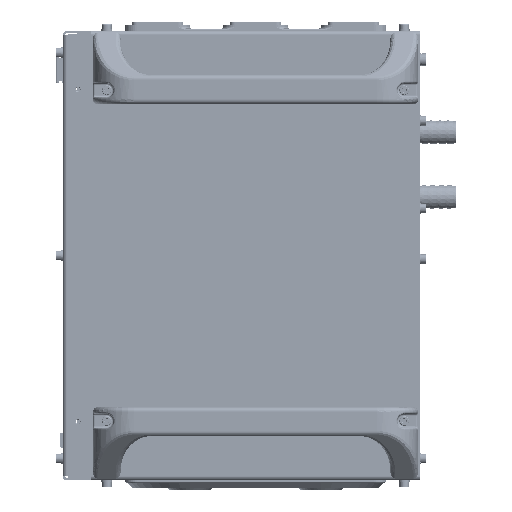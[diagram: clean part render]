
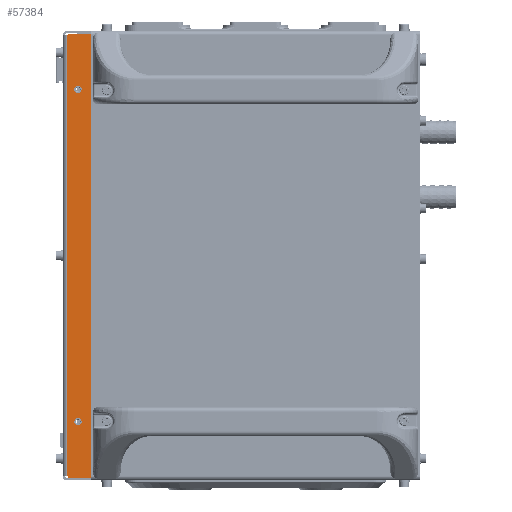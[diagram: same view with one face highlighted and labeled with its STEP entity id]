
A CAD part, front view. The second image highlights one B-rep face of the part: STEP entity #57384.
In plain terms, the highlighted planar face has unit normal (0, -1, 0).
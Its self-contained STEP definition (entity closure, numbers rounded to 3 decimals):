
#1955 = ORIENTED_EDGE ( 'NONE', *, *, #69011, .T. ) ;
#4949 = LINE ( 'NONE', #346080, #177623 ) ;
#6326 = EDGE_CURVE ( 'NONE', #330406, #332196, #173811, .T. ) ;
#9193 = DIRECTION ( 'NONE',  ( -1., 0., 0. ) ) ;
#11382 = DIRECTION ( 'NONE',  ( 1., 0., 0. ) ) ;
#11977 = EDGE_LOOP ( 'NONE', ( #90340, #1955, #254082, #341011, #77713, #286537, #365589, #318202 ) ) ;
#17326 = VERTEX_POINT ( 'NONE', #247960 ) ;
#23126 = VECTOR ( 'NONE', #100906, 1000. ) ;
#25386 = CARTESIAN_POINT ( 'NONE',  ( -110.24, -78.77, 74.876 ) ) ;
#29433 = EDGE_CURVE ( 'NONE', #332196, #80927, #232606, .T. ) ;
#31383 = AXIS2_PLACEMENT_3D ( 'NONE', #199873, #203574, #286525 ) ;
#31854 = LINE ( 'NONE', #243643, #36095 ) ;
#32689 = CARTESIAN_POINT ( 'NONE',  ( -110.24, -78.77, -230.255 ) ) ;
#36095 = VECTOR ( 'NONE', #213965, 1000. ) ;
#39328 = CARTESIAN_POINT ( 'NONE',  ( -107.075, -78.77, -177.96 ) ) ;
#41245 = VERTEX_POINT ( 'NONE', #107762 ) ;
#43238 = CARTESIAN_POINT ( 'NONE',  ( -107.7, -78.77, 73.96 ) ) ;
#45354 = EDGE_CURVE ( 'NONE', #228855, #137836, #340011, .T. ) ;
#54050 = VERTEX_POINT ( 'NONE', #352381 ) ;
#54112 = DIRECTION ( 'NONE',  ( 0., 0., 1. ) ) ;
#56574 = DIRECTION ( 'NONE',  ( 0., 1., 0. ) ) ;
#57384 = ADVANCED_FACE ( 'NONE', ( #94443, #214005, #218626 ), #344781, .T. ) ;
#58120 = AXIS2_PLACEMENT_3D ( 'NONE', #229005, #141030, #227801 ) ;
#60964 = CARTESIAN_POINT ( 'NONE',  ( -93.97, -78.77, -178.876 ) ) ;
#69011 = EDGE_CURVE ( 'NONE', #152117, #314448, #100896, .T. ) ;
#77713 = ORIENTED_EDGE ( 'NONE', *, *, #29433, .T. ) ;
#78864 = CARTESIAN_POINT ( 'NONE',  ( -93.97, -78.77, -230.255 ) ) ;
#80927 = VERTEX_POINT ( 'NONE', #60964 ) ;
#87127 = LINE ( 'NONE', #255403, #365970 ) ;
#90340 = ORIENTED_EDGE ( 'NONE', *, *, #367668, .T. ) ;
#94443 = FACE_BOUND ( 'NONE', #178537, .T. ) ;
#100896 = LINE ( 'NONE', #304316, #144974 ) ;
#100906 = DIRECTION ( 'NONE',  ( 0., 0., -1. ) ) ;
#102118 = CARTESIAN_POINT ( 'NONE',  ( -107.075, -78.77, -230.255 ) ) ;
#107762 = CARTESIAN_POINT ( 'NONE',  ( -101.47, -78.77, -144.89 ) ) ;
#110951 = CARTESIAN_POINT ( 'NONE',  ( -101.47, -78.77, -147. ) ) ;
#113377 = EDGE_CURVE ( 'NONE', #291716, #41245, #294890, .T. ) ;
#122811 = CIRCLE ( 'NONE', #163086, 2.11 ) ;
#137836 = VERTEX_POINT ( 'NONE', #220939 ) ;
#137986 = DIRECTION ( 'NONE',  ( -1., 0., 0. ) ) ;
#141030 = DIRECTION ( 'NONE',  ( 0., 1., 0. ) ) ;
#144974 = VECTOR ( 'NONE', #277108, 1000. ) ;
#146597 = DIRECTION ( 'NONE',  ( 0., -1., 0. ) ) ;
#146865 = CARTESIAN_POINT ( 'NONE',  ( -107.7, -78.77, -177.96 ) ) ;
#152117 = VERTEX_POINT ( 'NONE', #43238 ) ;
#163086 = AXIS2_PLACEMENT_3D ( 'NONE', #110951, #56574, #347513 ) ;
#173811 = LINE ( 'NONE', #102118, #23126 ) ;
#177623 = VECTOR ( 'NONE', #9193, 1000. ) ;
#178537 = EDGE_LOOP ( 'NONE', ( #302639, #327729 ) ) ;
#182687 = EDGE_CURVE ( 'NONE', #41245, #291716, #122811, .T. ) ;
#184069 = CARTESIAN_POINT ( 'NONE',  ( -93.97, -78.77, 74.876 ) ) ;
#184913 = EDGE_CURVE ( 'NONE', #80927, #228855, #333596, .T. ) ;
#189393 = VECTOR ( 'NONE', #137986, 1000. ) ;
#199873 = CARTESIAN_POINT ( 'NONE',  ( -101.47, -78.77, -147. ) ) ;
#203574 = DIRECTION ( 'NONE',  ( 0., 1., 0. ) ) ;
#213965 = DIRECTION ( 'NONE',  ( 0., 0., 1. ) ) ;
#214005 = FACE_BOUND ( 'NONE', #274856, .T. ) ;
#218626 = FACE_OUTER_BOUND ( 'NONE', #11977, .T. ) ;
#220939 = CARTESIAN_POINT ( 'NONE',  ( -107.075, -78.77, 74.876 ) ) ;
#227801 = DIRECTION ( 'NONE',  ( 0., 0., -1. ) ) ;
#228855 = VERTEX_POINT ( 'NONE', #184069 ) ;
#229005 = CARTESIAN_POINT ( 'NONE',  ( -101.47, -78.77, 43. ) ) ;
#232606 = LINE ( 'NONE', #344628, #299084 ) ;
#233485 = EDGE_CURVE ( 'NONE', #336693, #17326, #233838, .T. ) ;
#233735 = DIRECTION ( 'NONE',  ( 0., 0., -1. ) ) ;
#233838 = CIRCLE ( 'NONE', #58120, 2.11 ) ;
#236264 = VECTOR ( 'NONE', #54112, 1000. ) ;
#243643 = CARTESIAN_POINT ( 'NONE',  ( -107.075, -78.77, -230.255 ) ) ;
#244725 = AXIS2_PLACEMENT_3D ( 'NONE', #32689, #146597, #287912 ) ;
#246691 = ORIENTED_EDGE ( 'NONE', *, *, #233485, .T. ) ;
#246895 = EDGE_CURVE ( 'NONE', #54050, #137836, #31854, .T. ) ;
#247960 = CARTESIAN_POINT ( 'NONE',  ( -101.47, -78.77, 45.11 ) ) ;
#254082 = ORIENTED_EDGE ( 'NONE', *, *, #344536, .F. ) ;
#255336 = CARTESIAN_POINT ( 'NONE',  ( -107.075, -78.77, -178.876 ) ) ;
#255403 = CARTESIAN_POINT ( 'NONE',  ( -110.24, -78.77, 73.96 ) ) ;
#268862 = AXIS2_PLACEMENT_3D ( 'NONE', #345166, #288294, #233735 ) ;
#274856 = EDGE_LOOP ( 'NONE', ( #317272, #246691 ) ) ;
#277108 = DIRECTION ( 'NONE',  ( 0., 0., -1. ) ) ;
#283147 = CARTESIAN_POINT ( 'NONE',  ( -101.47, -78.77, 40.89 ) ) ;
#286525 = DIRECTION ( 'NONE',  ( 0., 0., 1. ) ) ;
#286537 = ORIENTED_EDGE ( 'NONE', *, *, #184913, .T. ) ;
#287912 = DIRECTION ( 'NONE',  ( 0., 0., -1. ) ) ;
#288294 = DIRECTION ( 'NONE',  ( 0., 1., 0. ) ) ;
#291716 = VERTEX_POINT ( 'NONE', #326681 ) ;
#294890 = CIRCLE ( 'NONE', #31383, 2.11 ) ;
#298858 = CIRCLE ( 'NONE', #268862, 2.11 ) ;
#299084 = VECTOR ( 'NONE', #11382, 1000. ) ;
#302639 = ORIENTED_EDGE ( 'NONE', *, *, #182687, .T. ) ;
#304316 = CARTESIAN_POINT ( 'NONE',  ( -107.7, -78.77, -177.96 ) ) ;
#313447 = DIRECTION ( 'NONE',  ( -1., 0., 0. ) ) ;
#314448 = VERTEX_POINT ( 'NONE', #146865 ) ;
#317272 = ORIENTED_EDGE ( 'NONE', *, *, #346621, .T. ) ;
#318202 = ORIENTED_EDGE ( 'NONE', *, *, #246895, .F. ) ;
#326681 = CARTESIAN_POINT ( 'NONE',  ( -101.47, -78.77, -149.11 ) ) ;
#327729 = ORIENTED_EDGE ( 'NONE', *, *, #113377, .T. ) ;
#330406 = VERTEX_POINT ( 'NONE', #39328 ) ;
#332196 = VERTEX_POINT ( 'NONE', #255336 ) ;
#333596 = LINE ( 'NONE', #78864, #236264 ) ;
#336693 = VERTEX_POINT ( 'NONE', #283147 ) ;
#340011 = LINE ( 'NONE', #25386, #189393 ) ;
#341011 = ORIENTED_EDGE ( 'NONE', *, *, #6326, .T. ) ;
#344536 = EDGE_CURVE ( 'NONE', #330406, #314448, #4949, .T. ) ;
#344628 = CARTESIAN_POINT ( 'NONE',  ( -110.24, -78.77, -178.876 ) ) ;
#344781 = PLANE ( 'NONE',  #244725 ) ;
#345166 = CARTESIAN_POINT ( 'NONE',  ( -101.47, -78.77, 43. ) ) ;
#346080 = CARTESIAN_POINT ( 'NONE',  ( -110.24, -78.77, -177.96 ) ) ;
#346621 = EDGE_CURVE ( 'NONE', #17326, #336693, #298858, .T. ) ;
#347513 = DIRECTION ( 'NONE',  ( 0., 0., 1. ) ) ;
#352381 = CARTESIAN_POINT ( 'NONE',  ( -107.075, -78.77, 73.96 ) ) ;
#365589 = ORIENTED_EDGE ( 'NONE', *, *, #45354, .T. ) ;
#365970 = VECTOR ( 'NONE', #313447, 1000. ) ;
#367668 = EDGE_CURVE ( 'NONE', #54050, #152117, #87127, .T. ) ;
